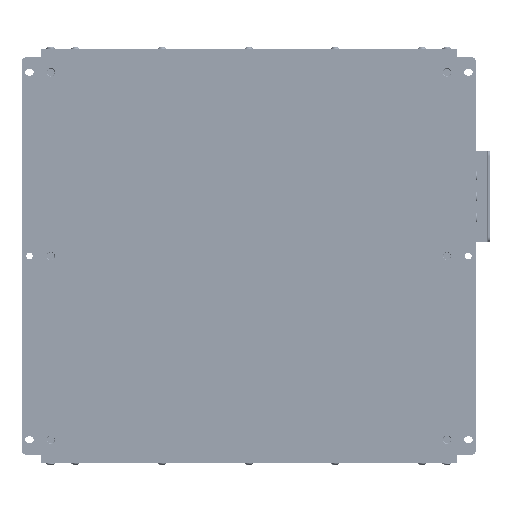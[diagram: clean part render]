
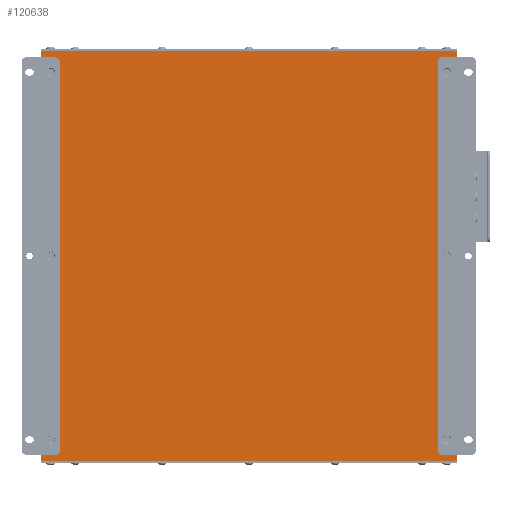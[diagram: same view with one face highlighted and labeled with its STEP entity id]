
A CAD part, front view. The second image highlights one B-rep face of the part: STEP entity #120638.
In plain terms, the highlighted planar face has unit normal (0, -1, 0).
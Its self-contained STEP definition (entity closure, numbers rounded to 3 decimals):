
#8147=PLANE('',#128876);
#13829=FACE_OUTER_BOUND('',#20808,.T.);
#20808=EDGE_LOOP('',(#100349,#100350,#100351,#100352,#100353,#100354,#100355,
#100356,#100357,#100358,#100359,#100360,#100361,#100362,#100363,#100364));
#23592=LINE('',#165778,#33792);
#23594=LINE('',#165782,#33794);
#23695=LINE('',#166236,#33895);
#23699=LINE('',#166245,#33899);
#23703=LINE('',#166255,#33903);
#23737=LINE('',#166377,#33937);
#23741=LINE('',#166386,#33941);
#23745=LINE('',#166395,#33945);
#23794=LINE('',#166565,#33994);
#23795=LINE('',#166567,#33995);
#30602=LINE('',#218115,#40802);
#30607=LINE('',#218124,#40807);
#33792=VECTOR('',#134655,10.);
#33794=VECTOR('',#134657,10.);
#33895=VECTOR('',#135020,10.);
#33899=VECTOR('',#135030,10.);
#33903=VECTOR('',#135040,10.);
#33937=VECTOR('',#135172,10.);
#33941=VECTOR('',#135182,10.);
#33945=VECTOR('',#135192,10.);
#33994=VECTOR('',#135373,10.);
#33995=VECTOR('',#135374,10.);
#40802=VECTOR('',#152481,10.);
#40807=VECTOR('',#152488,10.);
#43742=CIRCLE('',#123600,4.);
#43743=CIRCLE('',#123603,4.);
#43769=CIRCLE('',#123655,4.);
#43770=CIRCLE('',#123658,4.);
#47855=VERTEX_POINT('',#165775);
#47856=VERTEX_POINT('',#165777);
#47857=VERTEX_POINT('',#165779);
#47858=VERTEX_POINT('',#165781);
#48037=VERTEX_POINT('',#166234);
#48038=VERTEX_POINT('',#166235);
#48039=VERTEX_POINT('',#166240);
#48040=VERTEX_POINT('',#166244);
#48041=VERTEX_POINT('',#166248);
#48043=VERTEX_POINT('',#166253);
#48082=VERTEX_POINT('',#166376);
#48083=VERTEX_POINT('',#166381);
#48084=VERTEX_POINT('',#166385);
#48085=VERTEX_POINT('',#166389);
#48141=VERTEX_POINT('',#166563);
#48142=VERTEX_POINT('',#166566);
#59436=EDGE_CURVE('',#47855,#47856,#23592,.T.);
#59438=EDGE_CURVE('',#47857,#47858,#23594,.T.);
#59645=EDGE_CURVE('',#48037,#48038,#23695,.T.);
#59648=EDGE_CURVE('',#48038,#48039,#43742,.T.);
#59650=EDGE_CURVE('',#48039,#48040,#23699,.T.);
#59652=EDGE_CURVE('',#48040,#48041,#43743,.T.);
#59655=EDGE_CURVE('',#48041,#48043,#23703,.T.);
#59714=EDGE_CURVE('',#47857,#48082,#23737,.T.);
#59717=EDGE_CURVE('',#48082,#48083,#43769,.T.);
#59719=EDGE_CURVE('',#48083,#48084,#23741,.T.);
#59721=EDGE_CURVE('',#48084,#48085,#43770,.T.);
#59724=EDGE_CURVE('',#48085,#47856,#23745,.T.);
#59806=EDGE_CURVE('',#48141,#48043,#23794,.T.);
#59807=EDGE_CURVE('',#48037,#48142,#23795,.T.);
#70634=EDGE_CURVE('',#47858,#48141,#30602,.T.);
#70639=EDGE_CURVE('',#48142,#47855,#30607,.T.);
#100349=ORIENTED_EDGE('',*,*,#59655,.T.);
#100350=ORIENTED_EDGE('',*,*,#59806,.F.);
#100351=ORIENTED_EDGE('',*,*,#70634,.F.);
#100352=ORIENTED_EDGE('',*,*,#59438,.F.);
#100353=ORIENTED_EDGE('',*,*,#59714,.T.);
#100354=ORIENTED_EDGE('',*,*,#59717,.T.);
#100355=ORIENTED_EDGE('',*,*,#59719,.T.);
#100356=ORIENTED_EDGE('',*,*,#59721,.T.);
#100357=ORIENTED_EDGE('',*,*,#59724,.T.);
#100358=ORIENTED_EDGE('',*,*,#59436,.F.);
#100359=ORIENTED_EDGE('',*,*,#70639,.F.);
#100360=ORIENTED_EDGE('',*,*,#59807,.F.);
#100361=ORIENTED_EDGE('',*,*,#59645,.T.);
#100362=ORIENTED_EDGE('',*,*,#59648,.T.);
#100363=ORIENTED_EDGE('',*,*,#59650,.T.);
#100364=ORIENTED_EDGE('',*,*,#59652,.T.);
#120638=ADVANCED_FACE('',(#13829),#8147,.F.);
#123600=AXIS2_PLACEMENT_3D('',#166241,#135025,#135026);
#123603=AXIS2_PLACEMENT_3D('',#166249,#135034,#135035);
#123655=AXIS2_PLACEMENT_3D('',#166382,#135177,#135178);
#123658=AXIS2_PLACEMENT_3D('',#166390,#135186,#135187);
#128876=AXIS2_PLACEMENT_3D('',#218123,#152486,#152487);
#134655=DIRECTION('',(0.,0.,-1.));
#134657=DIRECTION('',(0.,0.,-1.));
#135020=DIRECTION('',(1.,0.,0.));
#135025=DIRECTION('center_axis',(0.,1.,
0.));
#135026=DIRECTION('ref_axis',(1.,0.,0.));
#135030=DIRECTION('',(0.,0.,-1.));
#135034=DIRECTION('center_axis',(0.,1.,
0.));
#135035=DIRECTION('ref_axis',(0.,0.,
-1.));
#135040=DIRECTION('',(-1.,0.,0.));
#135172=DIRECTION('',(-1.,0.,0.));
#135177=DIRECTION('center_axis',(0.,1.,
0.));
#135178=DIRECTION('ref_axis',(-1.,0.,0.));
#135182=DIRECTION('',(0.,0.,1.));
#135186=DIRECTION('center_axis',(0.,1.,
0.));
#135187=DIRECTION('ref_axis',(0.,0.,
1.));
#135192=DIRECTION('',(1.,0.,0.));
#135373=DIRECTION('',(0.,0.,1.));
#135374=DIRECTION('',(0.,0.,1.));
#152481=DIRECTION('',(-1.,0.,0.));
#152486=DIRECTION('center_axis',(0.,1.,
0.));
#152487=DIRECTION('ref_axis',(0.,0.,
1.));
#152488=DIRECTION('',(1.,0.,0.));
#165775=CARTESIAN_POINT('',(361.667,507.186,358.723));
#165777=CARTESIAN_POINT('',(361.667,507.186,352.623));
#165778=CARTESIAN_POINT('',(361.667,507.186,358.723));
#165779=CARTESIAN_POINT('',(361.667,507.186,-47.377));
#165781=CARTESIAN_POINT('',(361.667,507.186,-53.477));
#165782=CARTESIAN_POINT('',(361.667,507.186,358.723));
#166234=CARTESIAN_POINT('',(-57.333,507.355,352.623));
#166235=CARTESIAN_POINT('',(-42.333,507.349,352.623));
#166236=CARTESIAN_POINT('',(54.917,507.31,352.623));
#166240=CARTESIAN_POINT('',(-38.333,507.348,348.623));
#166241=CARTESIAN_POINT('Origin',(-42.333,507.349,348.623));
#166244=CARTESIAN_POINT('',(-38.333,507.348,-43.377));
#166245=CARTESIAN_POINT('',(-38.333,507.348,54.623));
#166248=CARTESIAN_POINT('',(-42.333,507.349,-47.377));
#166249=CARTESIAN_POINT('Origin',(-42.333,507.349,-43.377));
#166253=CARTESIAN_POINT('',(-57.333,507.355,-47.377));
#166255=CARTESIAN_POINT('',(39.917,507.316,-47.377));
#166376=CARTESIAN_POINT('',(346.667,507.192,-47.377));
#166377=CARTESIAN_POINT('',(249.417,507.231,-47.377));
#166381=CARTESIAN_POINT('',(342.667,507.193,-43.377));
#166382=CARTESIAN_POINT('Origin',(346.667,507.192,-43.377));
#166385=CARTESIAN_POINT('',(342.667,507.193,348.623));
#166386=CARTESIAN_POINT('',(342.667,507.193,250.623));
#166389=CARTESIAN_POINT('',(346.667,507.192,352.623));
#166390=CARTESIAN_POINT('Origin',(346.667,507.192,348.623));
#166395=CARTESIAN_POINT('',(264.417,507.225,352.623));
#166563=CARTESIAN_POINT('',(-57.333,507.355,-53.477));
#166565=CARTESIAN_POINT('',(-57.333,507.355,-53.477));
#166566=CARTESIAN_POINT('',(-57.333,507.355,358.723));
#166567=CARTESIAN_POINT('',(-57.333,507.355,-53.477));
#218115=CARTESIAN_POINT('',(361.667,507.186,-53.477));
#218123=CARTESIAN_POINT('Origin',(152.167,507.27,152.623));
#218124=CARTESIAN_POINT('',(-57.333,507.355,358.723));
